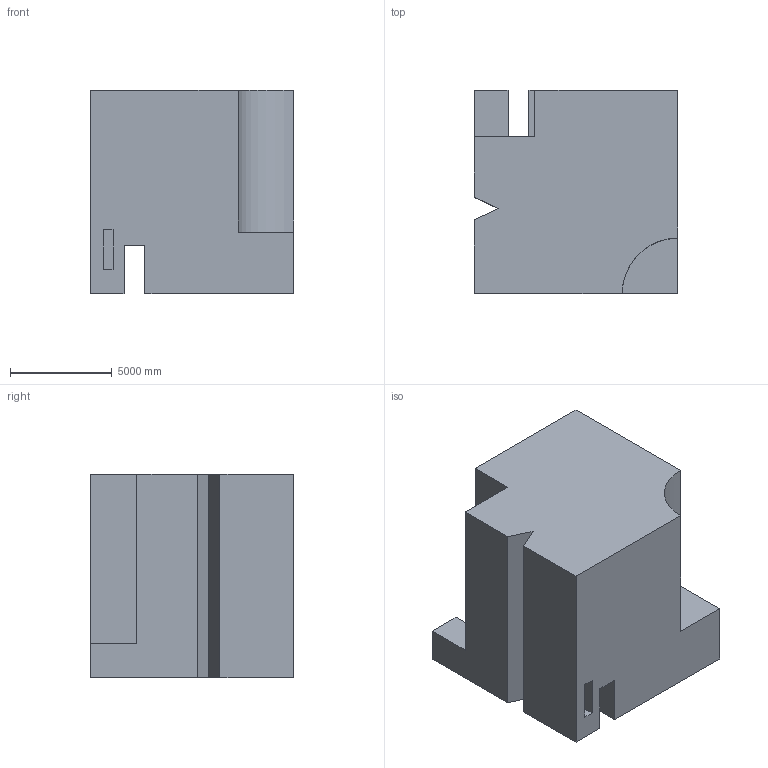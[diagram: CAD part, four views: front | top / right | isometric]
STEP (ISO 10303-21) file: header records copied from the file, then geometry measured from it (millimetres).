
FILE_DESCRIPTION (( 'STEP AP203' ), '1' );
FILE_NAME ('158.STEP', '2022-09-06T14:39:42', ( 'user' ), ( '' ), 'SwSTEP 2.0', 'SolidWorks 2021', '' );
FILE_SCHEMA (( 'CONFIG_CONTROL_DESIGN' ));
Length unit declared in the file: centimetre
Products named in the file (1): 158
Bounding box: 10000 x 10000 x 10000 mm (x, y, z)
Volume: 839645611416 mm3; surface area: 719176789.9 mm2
Topology: 1 solids, 1 shells, 32 faces, 87 edges, 58 vertices
Faces by surface type: plane 31, cylinder 1
Entity records: 1070 total; most frequent: CARTESIAN_POINT 178, ORIENTED_EDGE 174, DIRECTION 155, EDGE_CURVE 87, VECTOR 85, LINE 85, VERTEX_POINT 58, AXIS2_PLACEMENT_3D 35
